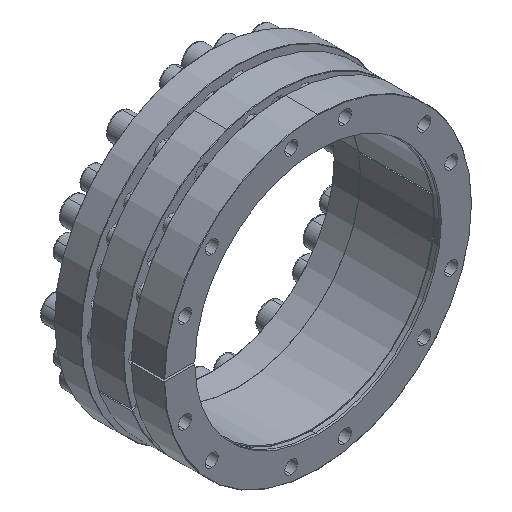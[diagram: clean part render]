
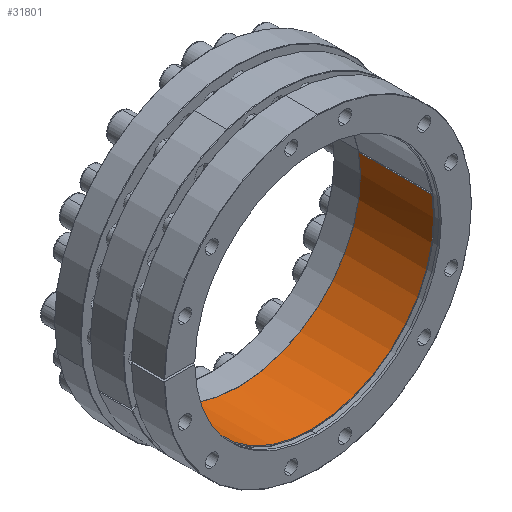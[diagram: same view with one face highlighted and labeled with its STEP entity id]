
A CAD part, isometric view. The second image highlights one B-rep face of the part: STEP entity #31801.
In plain terms, the highlighted cylindrical face has radius 165 mm (diameter 330 mm), a partial arc.
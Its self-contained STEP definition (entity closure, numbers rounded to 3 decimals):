
#4 = LINE ( 'NONE', #15059, #36405 ) ;
#254 = VERTEX_POINT ( 'NONE', #21207 ) ;
#306 = DIRECTION ( 'NONE',  ( 0., -1., 0. ) ) ;
#622 = VERTEX_POINT ( 'NONE', #35080 ) ;
#2275 = AXIS2_PLACEMENT_3D ( 'NONE', #17486, #306, #20403 ) ;
#3849 = VERTEX_POINT ( 'NONE', #28454 ) ;
#4903 = FACE_OUTER_BOUND ( 'NONE', #30463, .T. ) ;
#6396 = DIRECTION ( 'NONE',  ( 0., -1., 0. ) ) ;
#7098 = CARTESIAN_POINT ( 'NONE',  ( 162.547, 9.005, 28.346 ) ) ;
#8716 = CARTESIAN_POINT ( 'NONE',  ( -161.909, 9.005, -31.788 ) ) ;
#8895 = DIRECTION ( 'NONE',  ( 0., -1., 0. ) ) ;
#9174 = ORIENTED_EDGE ( 'NONE', *, *, #24018, .F. ) ;
#9398 = EDGE_CURVE ( 'NONE', #27256, #254, #28616, .T. ) ;
#11100 = CARTESIAN_POINT ( 'NONE',  ( 0., 9.005, 0. ) ) ;
#11369 = CIRCLE ( 'NONE', #33469, 165. ) ;
#12070 = CARTESIAN_POINT ( 'NONE',  ( 0., 9.005, 0. ) ) ;
#12473 = EDGE_CURVE ( 'NONE', #622, #22153, #29488, .T. ) ;
#12528 = DIRECTION ( 'NONE',  ( 0., -1., 0. ) ) ;
#13971 = DIRECTION ( 'NONE',  ( 0.983, 0., 0.182 ) ) ;
#14089 = ORIENTED_EDGE ( 'NONE', *, *, #24935, .T. ) ;
#15059 = CARTESIAN_POINT ( 'NONE',  ( -162.237, 9.005, -30.069 ) ) ;
#15417 = EDGE_CURVE ( 'NONE', #254, #622, #21725, .T. ) ;
#15420 = CARTESIAN_POINT ( 'NONE',  ( -161.909, 9.005, -31.788 ) ) ;
#15968 = DIRECTION ( 'NONE',  ( 0., -1., 0. ) ) ;
#16454 = ORIENTED_EDGE ( 'NONE', *, *, #9398, .T. ) ;
#16580 = EDGE_CURVE ( 'NONE', #17348, #22153, #20641, .T. ) ;
#16768 = ORIENTED_EDGE ( 'NONE', *, *, #35092, .T. ) ;
#17348 = VERTEX_POINT ( 'NONE', #34026 ) ;
#17486 = CARTESIAN_POINT ( 'NONE',  ( 0., 107.505, 0. ) ) ;
#18942 = AXIS2_PLACEMENT_3D ( 'NONE', #11100, #31183, #13971 ) ;
#19529 = VERTEX_POINT ( 'NONE', #29577 ) ;
#19712 = CIRCLE ( 'NONE', #34062, 165. ) ;
#20403 = DIRECTION ( 'NONE',  ( -0.983, 0., -0.182 ) ) ;
#20641 = LINE ( 'NONE', #26459, #28253 ) ;
#20816 = VECTOR ( 'NONE', #27135, 1000. ) ;
#21177 = VECTOR ( 'NONE', #12528, 1000. ) ;
#21207 = CARTESIAN_POINT ( 'NONE',  ( 162.547, 9.005, 28.346 ) ) ;
#21725 = LINE ( 'NONE', #7098, #20816 ) ;
#22153 = VERTEX_POINT ( 'NONE', #27809 ) ;
#24018 = EDGE_CURVE ( 'NONE', #34617, #17348, #11369, .T. ) ;
#24935 = EDGE_CURVE ( 'NONE', #34617, #19529, #4, .T. ) ;
#26052 = CARTESIAN_POINT ( 'NONE',  ( 0., 108.005, 0. ) ) ;
#26459 = CARTESIAN_POINT ( 'NONE',  ( 162.237, 9.005, 30.069 ) ) ;
#26470 = DIRECTION ( 'NONE',  ( 0.983, 0., 0.182 ) ) ;
#26587 = DIRECTION ( 'NONE',  ( 0., -1., 0. ) ) ;
#27135 = DIRECTION ( 'NONE',  ( 0., 1., 0. ) ) ;
#27256 = VERTEX_POINT ( 'NONE', #8716 ) ;
#27809 = CARTESIAN_POINT ( 'NONE',  ( 162.237, 107.505, 30.069 ) ) ;
#28253 = VECTOR ( 'NONE', #6396, 1000. ) ;
#28454 = CARTESIAN_POINT ( 'NONE',  ( -161.909, 107.505, -31.788 ) ) ;
#28616 = CIRCLE ( 'NONE', #18942, 165. ) ;
#28774 = LINE ( 'NONE', #15420, #21177 ) ;
#29049 = EDGE_CURVE ( 'NONE', #19529, #3849, #19712, .T. ) ;
#29488 = CIRCLE ( 'NONE', #2275, 165. ) ;
#29577 = CARTESIAN_POINT ( 'NONE',  ( -162.237, 107.505, -30.069 ) ) ;
#30441 = AXIS2_PLACEMENT_3D ( 'NONE', #12070, #32129, #26470 ) ;
#30463 = EDGE_LOOP ( 'NONE', ( #9174, #14089, #34559, #16768, #16454, #36088, #31909, #33373 ) ) ;
#30826 = DIRECTION ( 'NONE',  ( 0.983, 0., 0.182 ) ) ;
#31183 = DIRECTION ( 'NONE',  ( 0., -1., 0. ) ) ;
#31801 = ADVANCED_FACE ( 'NONE', ( #4903 ), #31841, .F. ) ;
#31841 = CYLINDRICAL_SURFACE ( 'NONE', #30441, 165. ) ;
#31909 = ORIENTED_EDGE ( 'NONE', *, *, #12473, .T. ) ;
#32129 = DIRECTION ( 'NONE',  ( 0., -1., 0. ) ) ;
#33115 = CARTESIAN_POINT ( 'NONE',  ( 0., 107.505, 0. ) ) ;
#33373 = ORIENTED_EDGE ( 'NONE', *, *, #16580, .F. ) ;
#33469 = AXIS2_PLACEMENT_3D ( 'NONE', #26052, #8895, #30826 ) ;
#34026 = CARTESIAN_POINT ( 'NONE',  ( 162.237, 108.005, 30.069 ) ) ;
#34062 = AXIS2_PLACEMENT_3D ( 'NONE', #33115, #15968, #36036 ) ;
#34559 = ORIENTED_EDGE ( 'NONE', *, *, #29049, .T. ) ;
#34617 = VERTEX_POINT ( 'NONE', #36154 ) ;
#35080 = CARTESIAN_POINT ( 'NONE',  ( 162.547, 107.505, 28.346 ) ) ;
#35092 = EDGE_CURVE ( 'NONE', #3849, #27256, #28774, .T. ) ;
#36036 = DIRECTION ( 'NONE',  ( -0.983, 0., -0.182 ) ) ;
#36088 = ORIENTED_EDGE ( 'NONE', *, *, #15417, .T. ) ;
#36154 = CARTESIAN_POINT ( 'NONE',  ( -162.237, 108.005, -30.069 ) ) ;
#36405 = VECTOR ( 'NONE', #26587, 1000. ) ;
